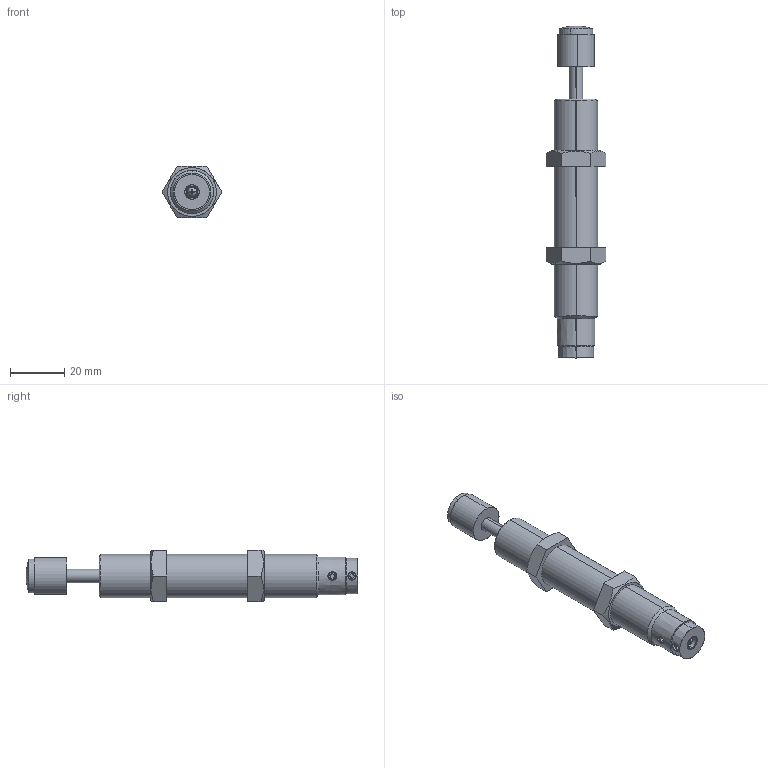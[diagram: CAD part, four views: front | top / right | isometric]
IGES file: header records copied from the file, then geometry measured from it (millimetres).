
Start section: SolidWorks IGES file using analytic representation for surfaces
Bounding box: 21.94 x 122.7 x 19 mm (x, y, z)
Surface area: 8433.8 mm2 (no closed solid volume)
Topology: 0 solids, 0 shells, 119 faces, 1758 edges, 1757 vertices
Faces by surface type: bspline 61, revolution 58
